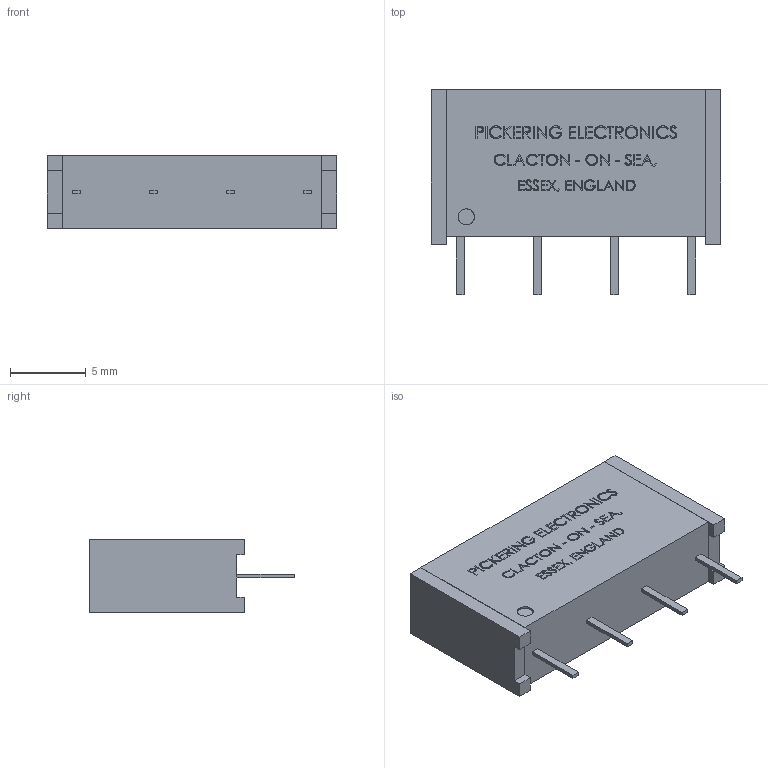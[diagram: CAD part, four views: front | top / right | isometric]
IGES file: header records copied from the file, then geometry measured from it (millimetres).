
Start section: SolidWorks IGES file using analytic representation for surfaces
Global section: file name: T:\Relays in Solidworks\Batch 5\107-1-B-x-xx.IGS; native system: SolidWorks 2009; preprocessor: SolidWorks 2009; author: alex.leming; date: 100630.140634; units: millimetre
Bounding box: 19.1 x 13.5 x 4.8 mm (x, y, z)
Surface area: 892.8 mm2 (no closed solid volume)
Topology: 0 solids, 0 shells, 992 faces, 8276 edges, 8276 vertices
Faces by surface type: bspline 990, revolution 2
